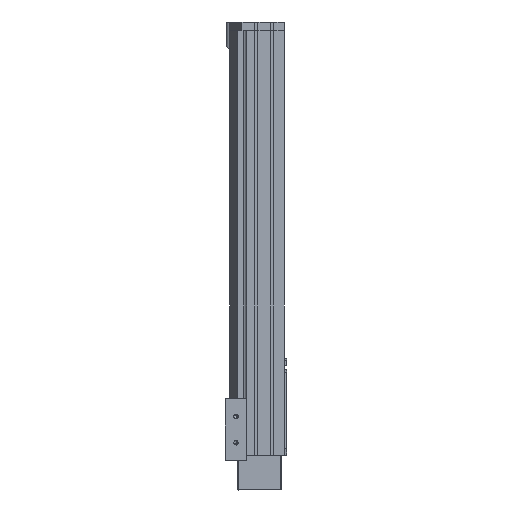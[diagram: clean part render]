
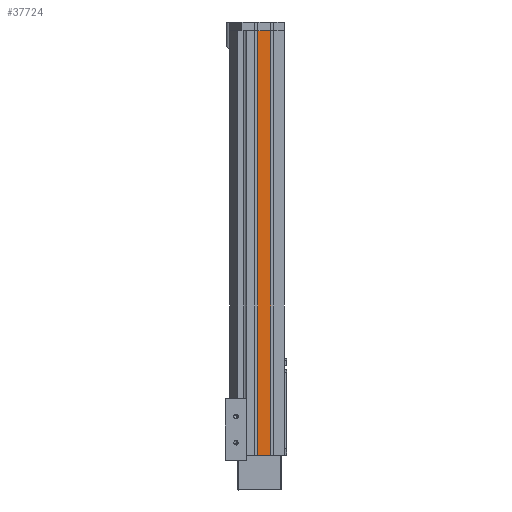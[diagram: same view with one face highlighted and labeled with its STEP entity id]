
A CAD part, left-side view. The second image highlights one B-rep face of the part: STEP entity #37724.
In plain terms, the highlighted planar face has unit normal (-1, 0, 0).
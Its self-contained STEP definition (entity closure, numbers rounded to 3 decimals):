
#24560 = CARTESIAN_POINT ( 'NONE',  ( -50., 30., 0. ) ) ;
#24649 = CARTESIAN_POINT ( 'NONE',  ( -50., 15.5, 0. ) ) ;
#24850 = CARTESIAN_POINT ( 'NONE',  ( -50., 15.5, 480. ) ) ;
#24937 = DIRECTION ( 'NONE',  ( 0., 0., -1. ) ) ;
#24938 = VECTOR ( 'NONE', #24937, 1000. ) ;
#24939 = CARTESIAN_POINT ( 'NONE',  ( -50., 30., 1400. ) ) ;
#24947 = LINE ( 'NONE', #24939, #24938 ) ;
#24948 = CARTESIAN_POINT ( 'NONE',  ( -50., 30., 480. ) ) ;
#24972 = CARTESIAN_POINT ( 'NONE',  ( -50., 15.5, 1400. ) ) ;
#24996 = DIRECTION ( 'NONE',  ( 1., 0., 0. ) ) ;
#24999 = DIRECTION ( 'NONE',  ( 0., -1., 0. ) ) ;
#25000 = VECTOR ( 'NONE', #24999, 1000. ) ;
#25002 = AXIS2_PLACEMENT_3D ( 'NONE', #24972, #24996, #25013 ) ;
#25003 = CARTESIAN_POINT ( 'NONE',  ( -50., 30., 480. ) ) ;
#25004 = LINE ( 'NONE', #25003, #25000 ) ;
#25005 = DIRECTION ( 'NONE',  ( 0., -1., 0. ) ) ;
#25006 = VECTOR ( 'NONE', #25005, 1000. ) ;
#25007 = FACE_OUTER_BOUND ( 'NONE', #37683, .T. ) ;
#25010 = PLANE ( 'NONE',  #25002 ) ;
#25012 = LINE ( 'NONE', #25018, #25006 ) ;
#25013 = DIRECTION ( 'NONE',  ( 0., 0., -1. ) ) ;
#25018 = CARTESIAN_POINT ( 'NONE',  ( -50., 15.5, 0. ) ) ;
#25049 = DIRECTION ( 'NONE',  ( 0., 0., -1. ) ) ;
#25050 = VECTOR ( 'NONE', #25049, 1000. ) ;
#25051 = CARTESIAN_POINT ( 'NONE',  ( -50., 15.5, 1400. ) ) ;
#25052 = LINE ( 'NONE', #25051, #25050 ) ;
#37488 = VERTEX_POINT ( 'NONE', #24560 ) ;
#37545 = VERTEX_POINT ( 'NONE', #24649 ) ;
#37631 = VERTEX_POINT ( 'NONE', #24850 ) ;
#37681 = EDGE_CURVE ( 'NONE', #37687, #37488, #24947, .T. ) ;
#37683 = EDGE_LOOP ( 'NONE', ( #37686, #37722, #37720, #37699 ) ) ;
#37686 = ORIENTED_EDGE ( 'NONE', *, *, #37726, .F. ) ;
#37687 = VERTEX_POINT ( 'NONE', #24948 ) ;
#37699 = ORIENTED_EDGE ( 'NONE', *, *, #37721, .T. ) ;
#37720 = ORIENTED_EDGE ( 'NONE', *, *, #37681, .T. ) ;
#37721 = EDGE_CURVE ( 'NONE', #37488, #37545, #25012, .T. ) ;
#37722 = ORIENTED_EDGE ( 'NONE', *, *, #37723, .F. ) ;
#37723 = EDGE_CURVE ( 'NONE', #37687, #37631, #25004, .T. ) ;
#37724 = ADVANCED_FACE ( 'NONE', ( #25007 ), #25010, .F. ) ;
#37726 = EDGE_CURVE ( 'NONE', #37631, #37545, #25052, .T. ) ;
